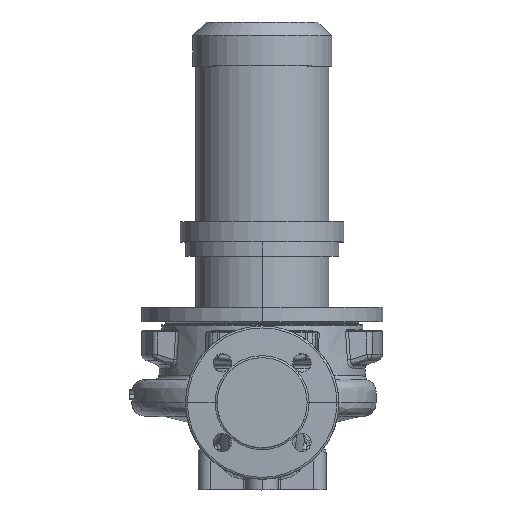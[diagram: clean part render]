
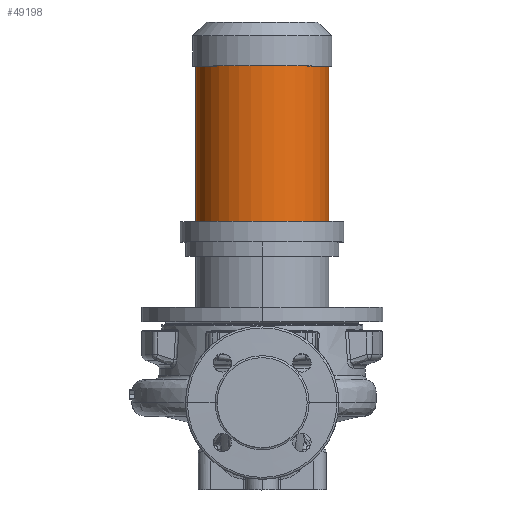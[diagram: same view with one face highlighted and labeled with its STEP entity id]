
A CAD part, top view. The second image highlights one B-rep face of the part: STEP entity #49198.
In plain terms, the highlighted cylindrical face has radius 65 mm (diameter 130 mm), a partial arc.
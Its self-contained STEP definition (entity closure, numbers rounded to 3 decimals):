
#915 = CARTESIAN_POINT ( 'NONE',  ( -65., 157.3, 0. ) ) ;
#4284 = EDGE_CURVE ( 'NONE', #21216, #74194, #25422, .T. ) ;
#9649 = VECTOR ( 'NONE', #46963, 1000. ) ;
#17071 = CARTESIAN_POINT ( 'NONE',  ( 65., 177.3, 0. ) ) ;
#17459 = VERTEX_POINT ( 'NONE', #80016 ) ;
#17899 = ORIENTED_EDGE ( 'NONE', *, *, #45517, .T. ) ;
#18060 = VERTEX_POINT ( 'NONE', #79766 ) ;
#19473 = CARTESIAN_POINT ( 'NONE',  ( 0., 329.3, 0. ) ) ;
#21216 = VERTEX_POINT ( 'NONE', #59178 ) ;
#25422 = LINE ( 'NONE', #63830, #40857 ) ;
#27215 = DIRECTION ( 'NONE',  ( 0., -1., 0. ) ) ;
#28850 = AXIS2_PLACEMENT_3D ( 'NONE', #49543, #69435, #36590 ) ;
#30746 = DIRECTION ( 'NONE',  ( -1., 0., 0. ) ) ;
#36590 = DIRECTION ( 'NONE',  ( -1., 0., 0. ) ) ;
#40857 = VECTOR ( 'NONE', #50266, 1000. ) ;
#44121 = EDGE_CURVE ( 'NONE', #17459, #18060, #47719, .T. ) ;
#45517 = EDGE_CURVE ( 'NONE', #21216, #17459, #77554, .T. ) ;
#46481 = DIRECTION ( 'NONE',  ( -1., 0., 0. ) ) ;
#46963 = DIRECTION ( 'NONE',  ( 0., -1., 0. ) ) ;
#47719 = LINE ( 'NONE', #915, #9649 ) ;
#49198 = ADVANCED_FACE ( 'NONE', ( #62676 ), #69885, .T. ) ;
#49543 = CARTESIAN_POINT ( 'NONE',  ( 0., 157.3, 0. ) ) ;
#50266 = DIRECTION ( 'NONE',  ( 0., -1., 0. ) ) ;
#50303 = DIRECTION ( 'NONE',  ( 0., -1., 0. ) ) ;
#59178 = CARTESIAN_POINT ( 'NONE',  ( 65., 329.3, 0. ) ) ;
#62676 = FACE_OUTER_BOUND ( 'NONE', #75510, .T. ) ;
#63830 = CARTESIAN_POINT ( 'NONE',  ( 65., 157.3, 0. ) ) ;
#65026 = ORIENTED_EDGE ( 'NONE', *, *, #4284, .F. ) ;
#67619 = ORIENTED_EDGE ( 'NONE', *, *, #78176, .F. ) ;
#69361 = CARTESIAN_POINT ( 'NONE',  ( 0., 177.3, 0. ) ) ;
#69435 = DIRECTION ( 'NONE',  ( 0., -1., 0. ) ) ;
#69885 = CYLINDRICAL_SURFACE ( 'NONE', #28850, 65. ) ;
#70170 = ORIENTED_EDGE ( 'NONE', *, *, #44121, .T. ) ;
#73460 = AXIS2_PLACEMENT_3D ( 'NONE', #19473, #27215, #46481 ) ;
#74194 = VERTEX_POINT ( 'NONE', #17071 ) ;
#75510 = EDGE_LOOP ( 'NONE', ( #65026, #17899, #70170, #67619 ) ) ;
#75546 = CIRCLE ( 'NONE', #82552, 65. ) ;
#77554 = CIRCLE ( 'NONE', #73460, 65. ) ;
#78176 = EDGE_CURVE ( 'NONE', #74194, #18060, #75546, .T. ) ;
#79766 = CARTESIAN_POINT ( 'NONE',  ( -65., 177.3, 0. ) ) ;
#80016 = CARTESIAN_POINT ( 'NONE',  ( -65., 329.3, 0. ) ) ;
#82552 = AXIS2_PLACEMENT_3D ( 'NONE', #69361, #50303, #30746 ) ;
